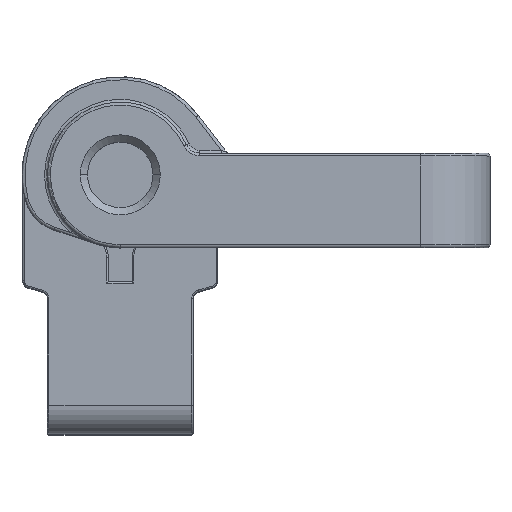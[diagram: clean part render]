
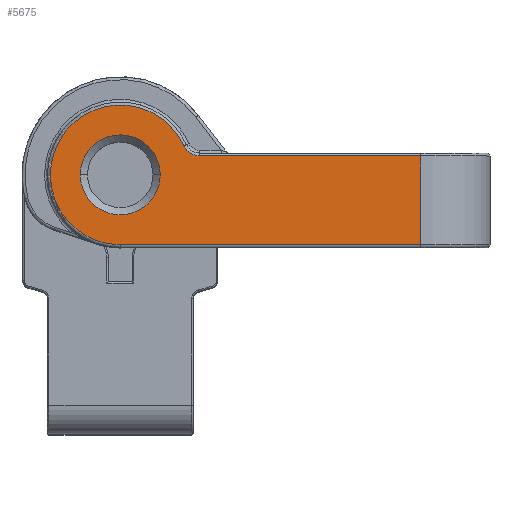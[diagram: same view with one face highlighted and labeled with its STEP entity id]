
A CAD part, top view. The second image highlights one B-rep face of the part: STEP entity #5675.
In plain terms, the highlighted planar face has unit normal (0, 0, 1).
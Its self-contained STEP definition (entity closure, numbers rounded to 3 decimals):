
#265 = AXIS2_PLACEMENT_3D ( 'NONE', #12916, #3574, #14443 ) ;
#394 = DIRECTION ( 'NONE',  ( 0., 0., -1. ) ) ;
#680 = CARTESIAN_POINT ( 'NONE',  ( 2.75, 0., -4.75 ) ) ;
#999 = LINE ( 'NONE', #14111, #4656 ) ;
#1322 = VERTEX_POINT ( 'NONE', #11082 ) ;
#1768 = DIRECTION ( 'NONE',  ( -1., 0., 0. ) ) ;
#2485 = CARTESIAN_POINT ( 'NONE',  ( 20.65, 1.3, -4.75 ) ) ;
#3105 = CARTESIAN_POINT ( 'NONE',  ( 0., 0., -4.75 ) ) ;
#3539 = VECTOR ( 'NONE', #1768, 1000. ) ;
#3574 = DIRECTION ( 'NONE',  ( 0., 0., -1. ) ) ;
#3597 = CARTESIAN_POINT ( 'NONE',  ( -2.75, 0., -4.75 ) ) ;
#3730 = EDGE_CURVE ( 'NONE', #18382, #10598, #6022, .T. ) ;
#4656 = VECTOR ( 'NONE', #4810, 1000. ) ;
#4663 = DIRECTION ( 'NONE',  ( -1., 0., 0. ) ) ;
#4810 = DIRECTION ( 'NONE',  ( 0., 1., 0. ) ) ;
#4997 = CARTESIAN_POINT ( 'NONE',  ( 5.454, 2.5, -4.75 ) ) ;
#5675 = ADVANCED_FACE ( 'NONE', ( #7836, #11508 ), #5902, .F. ) ;
#5902 = PLANE ( 'NONE',  #6609 ) ;
#6022 = CIRCLE ( 'NONE', #8018, 2.75 ) ;
#6569 = DIRECTION ( 'NONE',  ( 1., 0., 0. ) ) ;
#6609 = AXIS2_PLACEMENT_3D ( 'NONE', #15191, #16762, #7470 ) ;
#6677 = CARTESIAN_POINT ( 'NONE',  ( 5.454, 1.3, -4.75 ) ) ;
#6898 = EDGE_CURVE ( 'NONE', #8052, #17325, #9996, .T. ) ;
#7470 = DIRECTION ( 'NONE',  ( -1., 0., 0. ) ) ;
#7695 = LINE ( 'NONE', #11117, #3539 ) ;
#7836 = FACE_BOUND ( 'NONE', #18146, .T. ) ;
#8018 = AXIS2_PLACEMENT_3D ( 'NONE', #3105, #13966, #4663 ) ;
#8052 = VERTEX_POINT ( 'NONE', #17564 ) ;
#8307 = ORIENTED_EDGE ( 'NONE', *, *, #11317, .F. ) ;
#9745 = CARTESIAN_POINT ( 'NONE',  ( 0., 0., -4.75 ) ) ;
#9996 = CIRCLE ( 'NONE', #11999, 1.2 ) ;
#10598 = VERTEX_POINT ( 'NONE', #3597 ) ;
#10851 = VECTOR ( 'NONE', #17935, 1000. ) ;
#10858 = ORIENTED_EDGE ( 'NONE', *, *, #19962, .T. ) ;
#11082 = CARTESIAN_POINT ( 'NONE',  ( 0., -4.8, -4.75 ) ) ;
#11117 = CARTESIAN_POINT ( 'NONE',  ( 0., -4.8, -4.75 ) ) ;
#11301 = ORIENTED_EDGE ( 'NONE', *, *, #6898, .F. ) ;
#11317 = EDGE_CURVE ( 'NONE', #17325, #15762, #19084, .T. ) ;
#11336 = DIRECTION ( 'NONE',  ( 1., 0., 0. ) ) ;
#11508 = FACE_OUTER_BOUND ( 'NONE', #17749, .T. ) ;
#11547 = EDGE_CURVE ( 'NONE', #19240, #1322, #7695, .T. ) ;
#11999 = AXIS2_PLACEMENT_3D ( 'NONE', #4997, #15881, #6569 ) ;
#12298 = CIRCLE ( 'NONE', #265, 2.75 ) ;
#12916 = CARTESIAN_POINT ( 'NONE',  ( 0., 0., -4.75 ) ) ;
#13277 = ORIENTED_EDGE ( 'NONE', *, *, #13801, .T. ) ;
#13801 = EDGE_CURVE ( 'NONE', #10598, #18382, #12298, .T. ) ;
#13966 = DIRECTION ( 'NONE',  ( 0., 0., -1. ) ) ;
#14111 = CARTESIAN_POINT ( 'NONE',  ( 20.65, -26.5, -4.75 ) ) ;
#14443 = DIRECTION ( 'NONE',  ( -1., 0., 0. ) ) ;
#14770 = ORIENTED_EDGE ( 'NONE', *, *, #3730, .T. ) ;
#14800 = CARTESIAN_POINT ( 'NONE',  ( 0., 1.3, -4.75 ) ) ;
#15191 = CARTESIAN_POINT ( 'NONE',  ( 27.655, 15., -4.75 ) ) ;
#15762 = VERTEX_POINT ( 'NONE', #2485 ) ;
#15881 = DIRECTION ( 'NONE',  ( 0., 0., 1. ) ) ;
#16469 = AXIS2_PLACEMENT_3D ( 'NONE', #9745, #394, #11336 ) ;
#16762 = DIRECTION ( 'NONE',  ( 0., 0., -1. ) ) ;
#17287 = EDGE_CURVE ( 'NONE', #1322, #8052, #17849, .T. ) ;
#17325 = VERTEX_POINT ( 'NONE', #6677 ) ;
#17564 = CARTESIAN_POINT ( 'NONE',  ( 4.363, 2., -4.75 ) ) ;
#17749 = EDGE_LOOP ( 'NONE', ( #10858, #8307, #11301, #20116, #18926 ) ) ;
#17849 = CIRCLE ( 'NONE', #16469, 4.8 ) ;
#17935 = DIRECTION ( 'NONE',  ( 1., 0., 0. ) ) ;
#18146 = EDGE_LOOP ( 'NONE', ( #13277, #14770 ) ) ;
#18382 = VERTEX_POINT ( 'NONE', #680 ) ;
#18926 = ORIENTED_EDGE ( 'NONE', *, *, #11547, .F. ) ;
#19084 = LINE ( 'NONE', #14800, #10851 ) ;
#19240 = VERTEX_POINT ( 'NONE', #19816 ) ;
#19816 = CARTESIAN_POINT ( 'NONE',  ( 20.65, -4.8, -4.75 ) ) ;
#19962 = EDGE_CURVE ( 'NONE', #19240, #15762, #999, .T. ) ;
#20116 = ORIENTED_EDGE ( 'NONE', *, *, #17287, .F. ) ;
